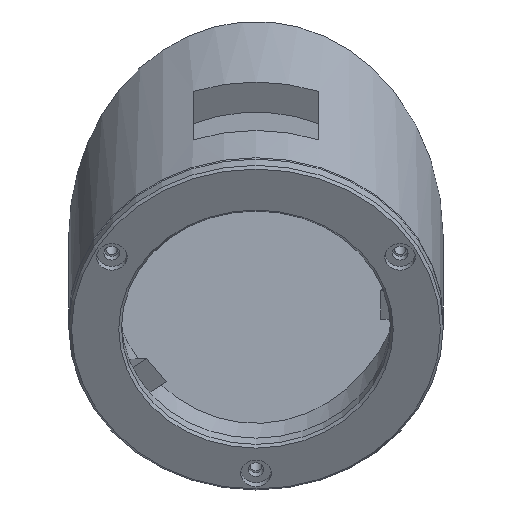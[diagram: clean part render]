
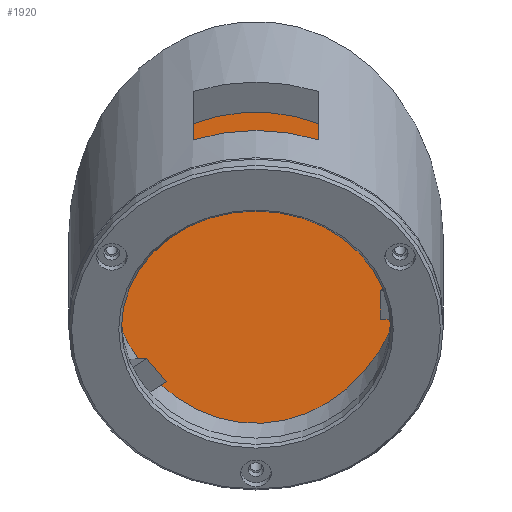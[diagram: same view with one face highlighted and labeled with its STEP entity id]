
A CAD part, top view. The second image highlights one B-rep face of the part: STEP entity #1920.
In plain terms, the highlighted planar face has unit normal (0, 0, 1).
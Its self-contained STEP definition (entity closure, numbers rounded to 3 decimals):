
#434 = CYLINDRICAL_SURFACE('',#435,22.);
#435 = AXIS2_PLACEMENT_3D('',#436,#437,#438);
#436 = CARTESIAN_POINT('',(0.,45.,-56.942));
#437 = DIRECTION('',(-0.,0.5,-0.866));
#438 = DIRECTION('',(1.,0.,0.));
#836 = EDGE_CURVE('',#837,#837,#839,.T.);
#837 = VERTEX_POINT('',#838);
#838 = CARTESIAN_POINT('',(22.,10.739,2.4));
#839 = SURFACE_CURVE('',#840,(#845,#886),.PCURVE_S1.);
#840 = ELLIPSE('',#841,25.403,22.);
#841 = AXIS2_PLACEMENT_3D('',#842,#843,#844);
#842 = CARTESIAN_POINT('',(0.,10.739,2.4));
#843 = DIRECTION('',(0.,0.,1.));
#844 = DIRECTION('',(0.,1.,-0.));
#845 = PCURVE('',#434,#846);
#846 = DEFINITIONAL_REPRESENTATION('',(#847),#885);
#847 = B_SPLINE_CURVE_WITH_KNOTS('',8,(#848,#849,#850,#851,#852,#853,
    #854,#855,#856,#857,#858,#859,#860,#861,#862,#863,#864,#865,#866,
    #867,#868,#869,#870,#871,#872,#873,#874,#875,#876,#877,#878,#879,
    #880,#881,#882,#883,#884),.UNSPECIFIED.,.F.,.F.,(9,7,7,7,7,9),(
    4.712,6.283,7.461,8.345,
    9.67,10.996),.UNSPECIFIED.);
#848 = CARTESIAN_POINT('',(0.,-68.523));
#849 = CARTESIAN_POINT('',(-0.196,-66.029));
#850 = CARTESIAN_POINT('',(-0.393,-63.535));
#851 = CARTESIAN_POINT('',(-0.589,-61.187));
#852 = CARTESIAN_POINT('',(-0.785,-59.133));
#853 = CARTESIAN_POINT('',(-0.982,-57.5));
#854 = CARTESIAN_POINT('',(-1.178,-56.381));
#855 = CARTESIAN_POINT('',(-1.374,-55.821));
#856 = CARTESIAN_POINT('',(-1.718,-55.821));
#857 = CARTESIAN_POINT('',(-1.865,-56.136));
#858 = CARTESIAN_POINT('',(-2.013,-56.765));
#859 = CARTESIAN_POINT('',(-2.16,-57.695));
#860 = CARTESIAN_POINT('',(-2.307,-58.896));
#861 = CARTESIAN_POINT('',(-2.454,-60.326));
#862 = CARTESIAN_POINT('',(-2.602,-61.934));
#863 = CARTESIAN_POINT('',(-2.859,-64.958));
#864 = CARTESIAN_POINT('',(-2.97,-66.322));
#865 = CARTESIAN_POINT('',(-3.08,-67.729));
#866 = CARTESIAN_POINT('',(-3.191,-69.155));
#867 = CARTESIAN_POINT('',(-3.301,-70.571));
#868 = CARTESIAN_POINT('',(-3.412,-71.952));
#869 = CARTESIAN_POINT('',(-3.522,-73.273));
#870 = CARTESIAN_POINT('',(-3.798,-76.366));
#871 = CARTESIAN_POINT('',(-3.964,-78.034));
#872 = CARTESIAN_POINT('',(-4.129,-79.437));
#873 = CARTESIAN_POINT('',(-4.295,-80.507));
#874 = CARTESIAN_POINT('',(-4.461,-81.197));
#875 = CARTESIAN_POINT('',(-4.626,-81.48));
#876 = CARTESIAN_POINT('',(-4.792,-81.355));
#877 = CARTESIAN_POINT('',(-5.123,-80.332));
#878 = CARTESIAN_POINT('',(-5.289,-79.435));
#879 = CARTESIAN_POINT('',(-5.455,-78.172));
#880 = CARTESIAN_POINT('',(-5.621,-76.588));
#881 = CARTESIAN_POINT('',(-5.786,-74.747));
#882 = CARTESIAN_POINT('',(-5.952,-72.731));
#883 = CARTESIAN_POINT('',(-6.118,-70.627));
#884 = CARTESIAN_POINT('',(-6.283,-68.523));
#885 = ( GEOMETRIC_REPRESENTATION_CONTEXT(2) 
PARAMETRIC_REPRESENTATION_CONTEXT() REPRESENTATION_CONTEXT('2D SPACE',''
  ) );
#886 = PCURVE('',#887,#892);
#887 = PLANE('',#888);
#888 = AXIS2_PLACEMENT_3D('',#889,#890,#891);
#889 = CARTESIAN_POINT('',(-125.,-125.,2.4));
#890 = DIRECTION('',(0.,0.,1.));
#891 = DIRECTION('',(1.,0.,0.));
#892 = DEFINITIONAL_REPRESENTATION('',(#893),#897);
#893 = ELLIPSE('',#894,25.403,22.);
#894 = AXIS2_PLACEMENT_2D('',#895,#896);
#895 = CARTESIAN_POINT('',(125.,135.739));
#896 = DIRECTION('',(0.,1.));
#897 = ( GEOMETRIC_REPRESENTATION_CONTEXT(2) 
PARAMETRIC_REPRESENTATION_CONTEXT() REPRESENTATION_CONTEXT('2D SPACE',''
  ) );
#1920 = ADVANCED_FACE('',(#1921),#887,.T.);
#1921 = FACE_BOUND('',#1922,.T.);
#1922 = EDGE_LOOP('',(#1923));
#1923 = ORIENTED_EDGE('',*,*,#836,.T.);
